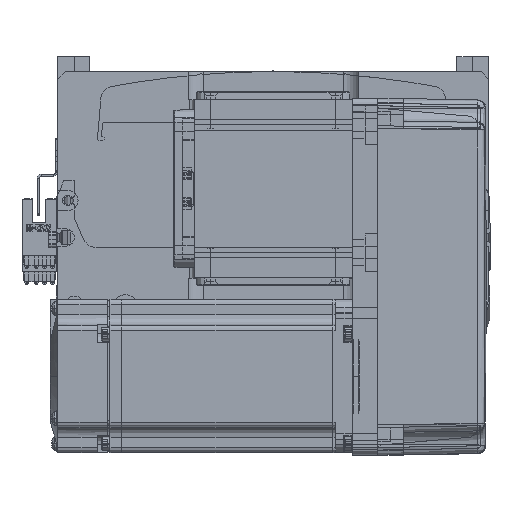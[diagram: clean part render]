
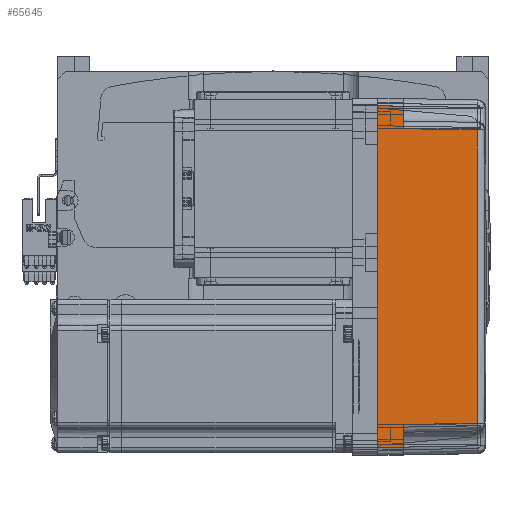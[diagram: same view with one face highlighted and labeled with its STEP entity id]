
A CAD part, top view. The second image highlights one B-rep face of the part: STEP entity #65645.
In plain terms, the highlighted planar face has unit normal (0.018, 0, 1) as drawn and (0, 1, 0.017) by its records, which use the part's own axes.
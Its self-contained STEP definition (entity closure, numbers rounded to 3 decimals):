
#188 = CARTESIAN_POINT ( 'NONE',  ( 57.495, 35.32, 38.985 ) ) ;
#1285 = DIRECTION ( 'NONE',  ( 0., 1., 0.017 ) ) ;
#1540 = EDGE_CURVE ( 'NONE', #8298, #6017, #25628, .T. ) ;
#2736 = ORIENTED_EDGE ( 'NONE', *, *, #1540, .T. ) ;
#3641 = DIRECTION ( 'NONE',  ( 0.017, -0.017, 1. ) ) ;
#5344 = FACE_OUTER_BOUND ( 'NONE', #9222, .T. ) ;
#6017 = VERTEX_POINT ( 'NONE', #73800 ) ;
#8177 = LINE ( 'NONE', #55393, #73421 ) ;
#8298 = VERTEX_POINT ( 'NONE', #21574 ) ;
#9130 = LINE ( 'NONE', #34226, #35896 ) ;
#9222 = EDGE_LOOP ( 'NONE', ( #2736, #32681, #46648, #69524, #54176, #63077, #28339, #18366 ) ) ;
#9377 = VERTEX_POINT ( 'NONE', #42070 ) ;
#9412 = CARTESIAN_POINT ( 'NONE',  ( 57.495, 35.32, 38.985 ) ) ;
#9905 = EDGE_CURVE ( 'NONE', #57163, #9377, #61118, .T. ) ;
#11119 = CARTESIAN_POINT ( 'NONE',  ( 70., 35.825, 10. ) ) ;
#11353 = EDGE_CURVE ( 'NONE', #9377, #51869, #49629, .T. ) ;
#14601 = VECTOR ( 'NONE', #3641, 1000. ) ;
#16698 = EDGE_CURVE ( 'NONE', #51869, #18635, #9130, .T. ) ;
#18366 = ORIENTED_EDGE ( 'NONE', *, *, #58970, .F. ) ;
#18635 = VERTEX_POINT ( 'NONE', #50367 ) ;
#21574 = CARTESIAN_POINT ( 'NONE',  ( -67., 36., 0. ) ) ;
#23766 = CARTESIAN_POINT ( 'NONE',  ( 67.001, 36.001, -0.052 ) ) ;
#25628 = LINE ( 'NONE', #42778, #57019 ) ;
#26021 = EDGE_CURVE ( 'NONE', #62132, #27182, #46474, .T. ) ;
#26095 = CARTESIAN_POINT ( 'NONE',  ( -19.165, 35.316, 39.181 ) ) ;
#27182 = VERTEX_POINT ( 'NONE', #38634 ) ;
#27507 = LINE ( 'NONE', #11119, #29303 ) ;
#28200 = CARTESIAN_POINT ( 'NONE',  ( 0., 36., 0. ) ) ;
#28339 = ORIENTED_EDGE ( 'NONE', *, *, #26021, .F. ) ;
#28449 = CARTESIAN_POINT ( 'NONE',  ( 67., 36., 0. ) ) ;
#28582 = VECTOR ( 'NONE', #41000, 1000. ) ;
#28919 = PLANE ( 'NONE',  #50906 ) ;
#29303 = VECTOR ( 'NONE', #51579, 1000. ) ;
#32681 = ORIENTED_EDGE ( 'NONE', *, *, #57661, .T. ) ;
#33936 = DIRECTION ( 'NONE',  ( 1., 0., 0. ) ) ;
#34226 = CARTESIAN_POINT ( 'NONE',  ( 57.495, 35.32, 38.985 ) ) ;
#35329 = LINE ( 'NONE', #28200, #54189 ) ;
#35896 = VECTOR ( 'NONE', #45730, 1000. ) ;
#37357 = CARTESIAN_POINT ( 'NONE',  ( -57.495, 35.32, 38.985 ) ) ;
#37853 = CARTESIAN_POINT ( 'NONE',  ( 19.165, 35.316, 39.181 ) ) ;
#38528 = EDGE_CURVE ( 'NONE', #18635, #27182, #8177, .T. ) ;
#38634 = CARTESIAN_POINT ( 'NONE',  ( 66.826, 35.825, 10. ) ) ;
#41000 = DIRECTION ( 'NONE',  ( -0.017, -0.017, 1. ) ) ;
#41430 = DIRECTION ( 'NONE',  ( 0., -0.017, 1. ) ) ;
#42070 = CARTESIAN_POINT ( 'NONE',  ( -57.495, 35.32, 38.985 ) ) ;
#42778 = CARTESIAN_POINT ( 'NONE',  ( -67., 36., 0. ) ) ;
#42925 = CARTESIAN_POINT ( 'NONE',  ( -58., 35.825, 10. ) ) ;
#43928 = DIRECTION ( 'NONE',  ( 1., 0., 0. ) ) ;
#45730 = DIRECTION ( 'NONE',  ( 0.017, 0.017, -1. ) ) ;
#46474 = LINE ( 'NONE', #23766, #28582 ) ;
#46648 = ORIENTED_EDGE ( 'NONE', *, *, #9905, .T. ) ;
#49287 = DIRECTION ( 'NONE',  ( 0.017, -0.017, 1. ) ) ;
#49629 = B_SPLINE_CURVE_WITH_KNOTS ( 'NONE', 3,
 ( #37357, #26095, #37853, #9412 ),
 .UNSPECIFIED., .F., .F.,
 ( 4, 4 ),
 ( 0., 1. ),
 .UNSPECIFIED. ) ;
#50367 = CARTESIAN_POINT ( 'NONE',  ( 58., 35.825, 10. ) ) ;
#50906 = AXIS2_PLACEMENT_3D ( 'NONE', #51707, #1285, #41430 ) ;
#51579 = DIRECTION ( 'NONE',  ( 1., 0., 0. ) ) ;
#51707 = CARTESIAN_POINT ( 'NONE',  ( 70., 36., 0. ) ) ;
#51869 = VERTEX_POINT ( 'NONE', #188 ) ;
#54176 = ORIENTED_EDGE ( 'NONE', *, *, #16698, .T. ) ;
#54189 = VECTOR ( 'NONE', #33936, 1000. ) ;
#55393 = CARTESIAN_POINT ( 'NONE',  ( 70., 35.825, 10. ) ) ;
#57019 = VECTOR ( 'NONE', #49287, 1000. ) ;
#57163 = VERTEX_POINT ( 'NONE', #42925 ) ;
#57661 = EDGE_CURVE ( 'NONE', #6017, #57163, #27507, .T. ) ;
#58970 = EDGE_CURVE ( 'NONE', #8298, #62132, #35329, .T. ) ;
#60791 = CARTESIAN_POINT ( 'NONE',  ( -58., 35.825, 10. ) ) ;
#61118 = LINE ( 'NONE', #60791, #14601 ) ;
#62132 = VERTEX_POINT ( 'NONE', #28449 ) ;
#63077 = ORIENTED_EDGE ( 'NONE', *, *, #38528, .T. ) ;
#65645 = ADVANCED_FACE ( 'NONE', ( #5344 ), #28919, .T. ) ;
#69524 = ORIENTED_EDGE ( 'NONE', *, *, #11353, .T. ) ;
#73421 = VECTOR ( 'NONE', #43928, 1000. ) ;
#73800 = CARTESIAN_POINT ( 'NONE',  ( -66.826, 35.825, 10. ) ) ;
